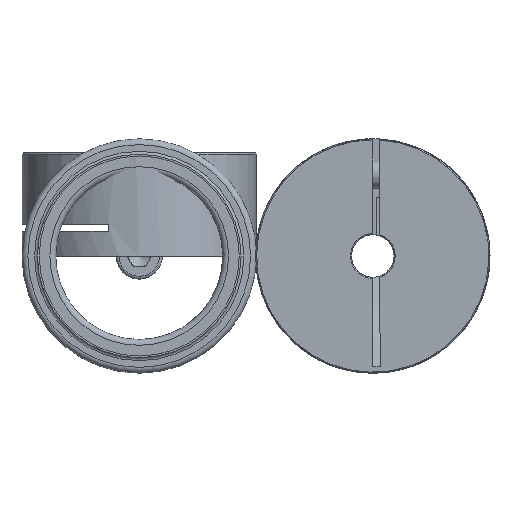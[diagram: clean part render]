
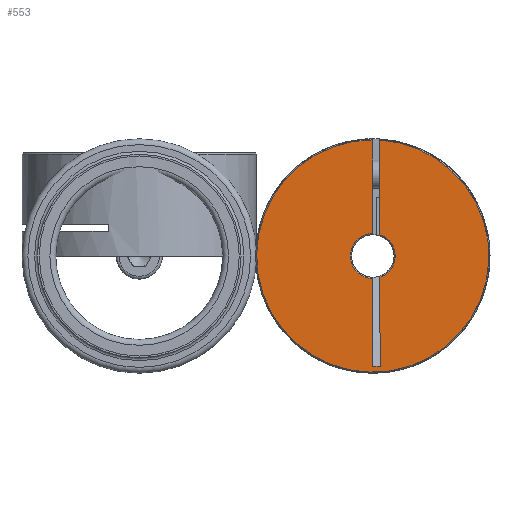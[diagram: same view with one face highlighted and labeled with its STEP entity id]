
A CAD part, left-side view. The second image highlights one B-rep face of the part: STEP entity #553.
In plain terms, the highlighted planar face has unit normal (-1, 0, 0) as drawn and (0, 0, 1) by its records, which use the part's own axes.
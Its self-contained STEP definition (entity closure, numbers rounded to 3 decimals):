
#553 = ADVANCED_FACE( 'NONE', ( #848 ), #849, .T. );
#848 = FACE_OUTER_BOUND( '', #1027, .T. );
#849 = PLANE( '', #1028 );
#1027 = EDGE_LOOP( '', ( #1326, #1327, #1328, #1329, #1330, #1331, #1332, #1333 ) );
#1028 = AXIS2_PLACEMENT_3D( '', #1334, #1335, #1336 );
#1326 = ORIENTED_EDGE( '', *, *, #1659, .F. );
#1327 = ORIENTED_EDGE( '', *, *, #1664, .T. );
#1328 = ORIENTED_EDGE( '', *, *, #1665, .F. );
#1329 = ORIENTED_EDGE( '', *, *, #1667, .T. );
#1330 = ORIENTED_EDGE( '', *, *, #1647, .T. );
#1331 = ORIENTED_EDGE( '', *, *, #1654, .T. );
#1332 = ORIENTED_EDGE( '', *, *, #1651, .T. );
#1333 = ORIENTED_EDGE( '', *, *, #1668, .F. );
#1334 = CARTESIAN_POINT( '', ( 0., 0., 29. ) );
#1335 = DIRECTION( '', ( 0., 0., 1. ) );
#1336 = DIRECTION( '', ( 1., 0., 0. ) );
#1647 = EDGE_CURVE( 'NONE', #1874, #1872, #1875, .T. );
#1651 = EDGE_CURVE( 'NONE', #1880, #1881, #1882, .T. );
#1654 = EDGE_CURVE( 'NONE', #1872, #1880, #1885, .F. );
#1659 = EDGE_CURVE( 'NONE', #1891, #1893, #1894, .F. );
#1664 = EDGE_CURVE( 'NONE', #1891, #1898, #1900, .F. );
#1665 = EDGE_CURVE( 'NONE', #1901, #1898, #1902, .F. );
#1667 = EDGE_CURVE( 'NONE', #1901, #1874, #1904, .T. );
#1668 = EDGE_CURVE( 'NONE', #1893, #1881, #1905, .F. );
#1872 = VERTEX_POINT( 'NONE', #2200 );
#1874 = VERTEX_POINT( 'NONE', #2205 );
#1875 = LINE( '', #2206, #2207 );
#1880 = VERTEX_POINT( 'NONE', #2215 );
#1881 = VERTEX_POINT( 'NONE', #2216 );
#1882 = LINE( '', #2217, #2218 );
#1885 = CIRCLE( '', #2224, 6.3 );
#1891 = VERTEX_POINT( 'NONE', #2230 );
#1893 = VERTEX_POINT( 'NONE', #2233 );
#1894 = LINE( '', #2234, #2235 );
#1898 = VERTEX_POINT( 'NONE', #2240 );
#1900 = CIRCLE( '', #2243, 6.3 );
#1901 = VERTEX_POINT( 'NONE', #2244 );
#1902 = LINE( '', #2245, #2246 );
#1904 = CIRCLE( '', #2249, 32.7 );
#1905 = LINE( '', #2250, #2251 );
#2200 = CARTESIAN_POINT( '', ( 5.974, -2., 29. ) );
#2205 = CARTESIAN_POINT( '', ( 32.639, -2., 29. ) );
#2206 = CARTESIAN_POINT( '', ( 0., -2., 29. ) );
#2207 = VECTOR( '', #2382, 1000. );
#2215 = CARTESIAN_POINT( '', ( -5.974, -2., 29. ) );
#2216 = CARTESIAN_POINT( '', ( -31.103, -2., 29. ) );
#2217 = CARTESIAN_POINT( '', ( 0., -2., 29. ) );
#2218 = VECTOR( '', #2389, 1000. );
#2224 = AXIS2_PLACEMENT_3D( '', #2393, #2394, #2395 );
#2230 = CARTESIAN_POINT( '', ( -6.3, 0., 29. ) );
#2233 = CARTESIAN_POINT( '', ( -31.103, 0., 29. ) );
#2234 = CARTESIAN_POINT( '', ( 16.5, 0., 29. ) );
#2235 = VECTOR( '', #2406, 1000. );
#2240 = CARTESIAN_POINT( '', ( 6.3, 0., 29. ) );
#2243 = AXIS2_PLACEMENT_3D( '', #2415, #2416, #2417 );
#2244 = CARTESIAN_POINT( '', ( 32.7, 0., 29. ) );
#2245 = CARTESIAN_POINT( '', ( 16.5, 0., 29. ) );
#2246 = VECTOR( '', #2418, 1000. );
#2249 = AXIS2_PLACEMENT_3D( '', #2420, #2421, #2422 );
#2250 = CARTESIAN_POINT( '', ( -31.103, -2., 29. ) );
#2251 = VECTOR( '', #2423, 1000. );
#2382 = DIRECTION( '', ( -1., 0., 0. ) );
#2389 = DIRECTION( '', ( -1., 0., 0. ) );
#2393 = CARTESIAN_POINT( '', ( 0., 0., 29. ) );
#2394 = DIRECTION( '', ( 0., 0., 1. ) );
#2395 = DIRECTION( '', ( 1., 0., 0. ) );
#2406 = DIRECTION( '', ( 1., 0., 0. ) );
#2415 = CARTESIAN_POINT( '', ( 0., 0., 29. ) );
#2416 = DIRECTION( '', ( 0., 0., 1. ) );
#2417 = DIRECTION( '', ( 1., 0., 0. ) );
#2418 = DIRECTION( '', ( 1., 0., 0. ) );
#2420 = CARTESIAN_POINT( '', ( 0., 0., 29. ) );
#2421 = DIRECTION( '', ( 0., 0., 1. ) );
#2422 = DIRECTION( '', ( 1., 0., 0. ) );
#2423 = DIRECTION( '', ( 0., 1., 0. ) );
